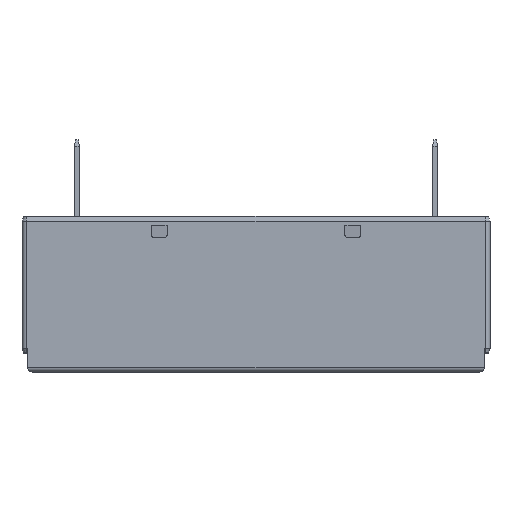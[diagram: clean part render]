
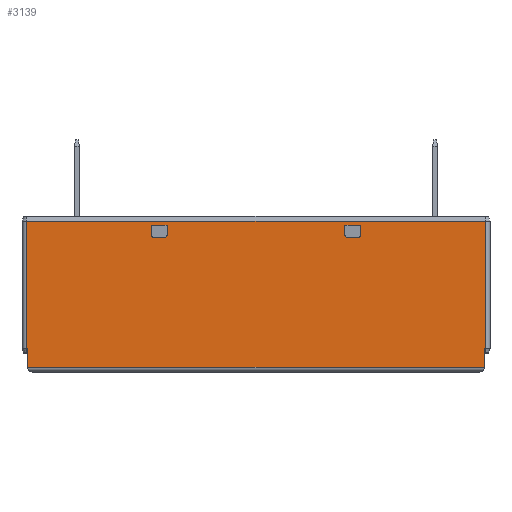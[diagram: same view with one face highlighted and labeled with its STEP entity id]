
A CAD part, front view. The second image highlights one B-rep face of the part: STEP entity #3139.
In plain terms, the highlighted planar face has unit normal (0, -1, 0).
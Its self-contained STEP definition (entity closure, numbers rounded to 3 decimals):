
#127=FACE_BOUND('',#623,.T.);
#128=FACE_BOUND('',#624,.T.);
#139=CIRCLE('',#3202,0.5);
#140=CIRCLE('',#3204,0.5);
#200=CIRCLE('',#3352,0.5);
#201=CIRCLE('',#3354,0.5);
#428=FACE_OUTER_BOUND('',#622,.T.);
#622=EDGE_LOOP('',(#2754,#2755,#2756,#2757,#2758,#2759,#2760,#2761));
#623=EDGE_LOOP('',(#2762,#2763,#2764,#2765,#2766,#2767));
#624=EDGE_LOOP('',(#2768,#2769,#2770,#2771,#2772,#2773));
#711=LINE('',#4612,#1013);
#724=LINE('',#4651,#1026);
#725=LINE('',#4653,#1027);
#728=LINE('',#4659,#1030);
#792=LINE('',#4922,#1094);
#796=LINE('',#4930,#1098);
#811=LINE('',#4968,#1113);
#841=LINE('',#5038,#1143);
#855=LINE('',#5075,#1157);
#856=LINE('',#5077,#1158);
#857=LINE('',#5081,#1159);
#910=LINE('',#5303,#1212);
#922=LINE('',#5335,#1224);
#925=LINE('',#5342,#1227);
#927=LINE('',#5348,#1229);
#932=LINE('',#5365,#1234);
#1013=VECTOR('',#3639,10.);
#1026=VECTOR('',#3676,10.);
#1027=VECTOR('',#3679,10.);
#1030=VECTOR('',#3688,10.);
#1094=VECTOR('',#3948,10.);
#1098=VECTOR('',#3958,10.);
#1113=VECTOR('',#3999,10.);
#1143=VECTOR('',#4065,10.);
#1157=VECTOR('',#4103,10.);
#1158=VECTOR('',#4106,10.);
#1159=VECTOR('',#4113,10.);
#1212=VECTOR('',#4336,10.);
#1224=VECTOR('',#4372,10.);
#1227=VECTOR('',#4381,10.);
#1229=VECTOR('',#4391,10.);
#1234=VECTOR('',#4412,10.);
#1296=VERTEX_POINT('',#4601);
#1301=VERTEX_POINT('',#4610);
#1302=VERTEX_POINT('',#4614);
#1303=VERTEX_POINT('',#4616);
#1304=VERTEX_POINT('',#4620);
#1305=VERTEX_POINT('',#4622);
#1381=VERTEX_POINT('',#4891);
#1388=VERTEX_POINT('',#4917);
#1389=VERTEX_POINT('',#4921);
#1390=VERTEX_POINT('',#4929);
#1420=VERTEX_POINT('',#5034);
#1422=VERTEX_POINT('',#5037);
#1426=VERTEX_POINT('',#5047);
#1427=VERTEX_POINT('',#5049);
#1428=VERTEX_POINT('',#5053);
#1429=VERTEX_POINT('',#5055);
#1490=VERTEX_POINT('',#5301);
#1497=VERTEX_POINT('',#5329);
#1498=VERTEX_POINT('',#5333);
#1499=VERTEX_POINT('',#5340);
#1589=EDGE_CURVE('',#1301,#1296,#711,.T.);
#1591=EDGE_CURVE('',#1302,#1303,#139,.T.);
#1594=EDGE_CURVE('',#1304,#1305,#140,.T.);
#1608=EDGE_CURVE('',#1305,#1301,#724,.T.);
#1609=EDGE_CURVE('',#1296,#1302,#725,.T.);
#1612=EDGE_CURVE('',#1303,#1304,#728,.T.);
#1730=EDGE_CURVE('',#1389,#1388,#792,.T.);
#1734=EDGE_CURVE('',#1389,#1390,#796,.T.);
#1754=EDGE_CURVE('',#1388,#1381,#811,.T.);
#1789=EDGE_CURVE('',#1422,#1420,#841,.T.);
#1795=EDGE_CURVE('',#1427,#1426,#200,.T.);
#1798=EDGE_CURVE('',#1429,#1428,#201,.T.);
#1809=EDGE_CURVE('',#1428,#1422,#855,.T.);
#1810=EDGE_CURVE('',#1420,#1427,#856,.T.);
#1811=EDGE_CURVE('',#1426,#1429,#857,.T.);
#1911=EDGE_CURVE('',#1381,#1490,#910,.T.);
#1927=EDGE_CURVE('',#1498,#1497,#922,.T.);
#1930=EDGE_CURVE('',#1498,#1499,#925,.T.);
#1933=EDGE_CURVE('',#1390,#1499,#927,.T.);
#1940=EDGE_CURVE('',#1497,#1490,#932,.T.);
#2754=ORIENTED_EDGE('',*,*,#1911,.T.);
#2755=ORIENTED_EDGE('',*,*,#1940,.F.);
#2756=ORIENTED_EDGE('',*,*,#1927,.F.);
#2757=ORIENTED_EDGE('',*,*,#1930,.T.);
#2758=ORIENTED_EDGE('',*,*,#1933,.F.);
#2759=ORIENTED_EDGE('',*,*,#1734,.F.);
#2760=ORIENTED_EDGE('',*,*,#1730,.T.);
#2761=ORIENTED_EDGE('',*,*,#1754,.T.);
#2762=ORIENTED_EDGE('',*,*,#1591,.F.);
#2763=ORIENTED_EDGE('',*,*,#1609,.F.);
#2764=ORIENTED_EDGE('',*,*,#1589,.F.);
#2765=ORIENTED_EDGE('',*,*,#1608,.F.);
#2766=ORIENTED_EDGE('',*,*,#1594,.F.);
#2767=ORIENTED_EDGE('',*,*,#1612,.F.);
#2768=ORIENTED_EDGE('',*,*,#1795,.T.);
#2769=ORIENTED_EDGE('',*,*,#1811,.T.);
#2770=ORIENTED_EDGE('',*,*,#1798,.T.);
#2771=ORIENTED_EDGE('',*,*,#1809,.T.);
#2772=ORIENTED_EDGE('',*,*,#1789,.T.);
#2773=ORIENTED_EDGE('',*,*,#1810,.T.);
#2924=PLANE('',#3476);
#3139=ADVANCED_FACE('',(#428,#127,#128),#2924,.T.);
#3202=AXIS2_PLACEMENT_3D('',#4617,#3643,#3644);
#3204=AXIS2_PLACEMENT_3D('',#4623,#3649,#3650);
#3352=AXIS2_PLACEMENT_3D('',#5050,#4075,#4076);
#3354=AXIS2_PLACEMENT_3D('',#5056,#4081,#4082);
#3476=AXIS2_PLACEMENT_3D('',#5364,#4410,#4411);
#3639=DIRECTION('',(-1.,0.,0.));
#3643=DIRECTION('center_axis',(0.,-1.,0.));
#3644=DIRECTION('ref_axis',(-0.707,0.,-0.707));
#3649=DIRECTION('center_axis',(0.,-1.,0.));
#3650=DIRECTION('ref_axis',(0.707,0.,-0.707));
#3676=DIRECTION('',(0.,0.,1.));
#3679=DIRECTION('',(0.,0.,-1.));
#3688=DIRECTION('',(1.,0.,0.));
#3948=DIRECTION('',(1.,0.,0.));
#3958=DIRECTION('',(0.,0.,-1.));
#3999=DIRECTION('',(0.,0.,1.));
#4065=DIRECTION('',(1.,0.,0.));
#4075=DIRECTION('center_axis',(0.,1.,0.));
#4076=DIRECTION('ref_axis',(0.707,0.,-0.707));
#4081=DIRECTION('center_axis',(0.,1.,0.));
#4082=DIRECTION('ref_axis',(-0.707,0.,-0.707));
#4103=DIRECTION('',(0.,0.,1.));
#4106=DIRECTION('',(0.,0.,-1.));
#4113=DIRECTION('',(-1.,0.,0.));
#4336=DIRECTION('',(-1.,0.,0.));
#4372=DIRECTION('',(-1.,0.,0.));
#4381=DIRECTION('',(0.,0.,-1.));
#4391=DIRECTION('',(-1.,0.,0.));
#4410=DIRECTION('center_axis',(0.,-1.,0.));
#4411=DIRECTION('ref_axis',(1.,0.,0.));
#4412=DIRECTION('',(0.,0.,1.));
#4601=CARTESIAN_POINT('',(14.25,-12.5,23.5));
#4610=CARTESIAN_POINT('',(16.75,-12.5,23.5));
#4612=CARTESIAN_POINT('',(26.675,-12.5,23.5));
#4614=CARTESIAN_POINT('',(14.25,-12.5,22.));
#4616=CARTESIAN_POINT('',(14.75,-12.5,21.5));
#4617=CARTESIAN_POINT('Origin',(14.75,-12.5,22.));
#4620=CARTESIAN_POINT('',(16.25,-12.5,21.5));
#4622=CARTESIAN_POINT('',(16.75,-12.5,22.));
#4623=CARTESIAN_POINT('Origin',(16.25,-12.5,22.));
#4651=CARTESIAN_POINT('',(16.75,-12.5,10.75));
#4653=CARTESIAN_POINT('',(14.25,-12.5,11.75));
#4659=CARTESIAN_POINT('',(25.425,-12.5,21.5));
#4891=CARTESIAN_POINT('',(36.7,-12.5,24.2));
#4917=CARTESIAN_POINT('',(36.7,-12.5,3.8));
#4921=CARTESIAN_POINT('',(36.6,-12.5,3.8));
#4922=CARTESIAN_POINT('',(36.65,-12.5,3.8));
#4929=CARTESIAN_POINT('',(36.6,-12.5,0.8));
#4930=CARTESIAN_POINT('',(36.6,-12.5,0.));
#4968=CARTESIAN_POINT('',(36.7,-12.5,0.));
#5034=CARTESIAN_POINT('',(-14.25,-12.5,23.5));
#5037=CARTESIAN_POINT('',(-16.75,-12.5,23.5));
#5038=CARTESIAN_POINT('',(-26.675,-12.5,23.5));
#5047=CARTESIAN_POINT('',(-14.75,-12.5,21.5));
#5049=CARTESIAN_POINT('',(-14.25,-12.5,22.));
#5050=CARTESIAN_POINT('Origin',(-14.75,-12.5,22.));
#5053=CARTESIAN_POINT('',(-16.75,-12.5,22.));
#5055=CARTESIAN_POINT('',(-16.25,-12.5,21.5));
#5056=CARTESIAN_POINT('Origin',(-16.25,-12.5,22.));
#5075=CARTESIAN_POINT('',(-16.75,-12.5,10.75));
#5077=CARTESIAN_POINT('',(-14.25,-12.5,11.75));
#5081=CARTESIAN_POINT('',(-25.425,-12.5,21.5));
#5301=CARTESIAN_POINT('',(-36.7,-12.5,24.2));
#5303=CARTESIAN_POINT('',(18.3,-12.5,24.2));
#5329=CARTESIAN_POINT('',(-36.7,-12.5,3.8));
#5333=CARTESIAN_POINT('',(-36.6,-12.5,3.8));
#5335=CARTESIAN_POINT('',(-36.65,-12.5,3.8));
#5340=CARTESIAN_POINT('',(-36.6,-12.5,0.8));
#5342=CARTESIAN_POINT('',(-36.6,-12.5,0.));
#5348=CARTESIAN_POINT('',(-18.3,-12.5,0.8));
#5364=CARTESIAN_POINT('Origin',(-36.6,-12.5,0.));
#5365=CARTESIAN_POINT('',(-36.7,-12.5,0.));
